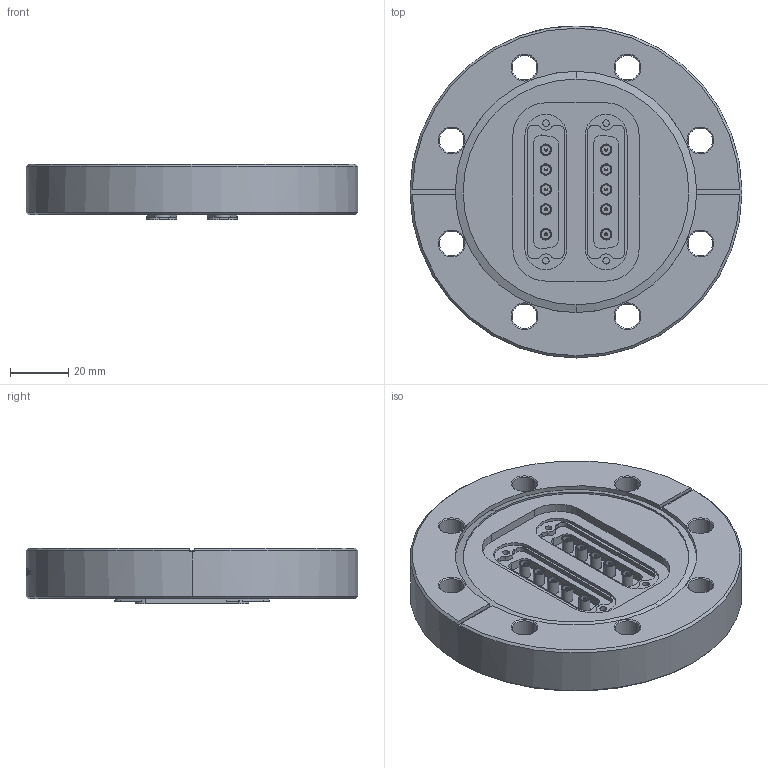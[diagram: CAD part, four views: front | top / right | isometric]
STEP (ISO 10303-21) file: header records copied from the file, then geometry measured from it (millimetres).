
FILE_DESCRIPTION (( 'STEP AP203' ), '1' );
FILE_NAME ('100522.stp', '2019-10-24T14:46:08', ( '' ), ( '' ), 'SwSTEP 2.0', 'SolidWorks 2012', '' );
FILE_SCHEMA (( 'CONFIG_CONTROL_DESIGN' ));
Length unit declared in the file: centimetre
Products named in the file (1): 100522
Bounding box: 113.54 x 113.54 x 19.02 mm (x, y, z)
Volume: 145012.2 mm3; surface area: 35605 mm2
Topology: 1 solids, 1 shells, 847 faces, 2056 edges, 1320 vertices
Faces by surface type: plane 276, cylinder 271, bspline 141, cone 119, torus 40
Entity records: 51207 total; most frequent: CARTESIAN_POINT 31724, ORIENTED_EDGE 4112, DIRECTION 3872, EDGE_CURVE 2056, AXIS2_PLACEMENT_3D 1491, VERTEX_POINT 1320, EDGE_LOOP 972, LINE 890
